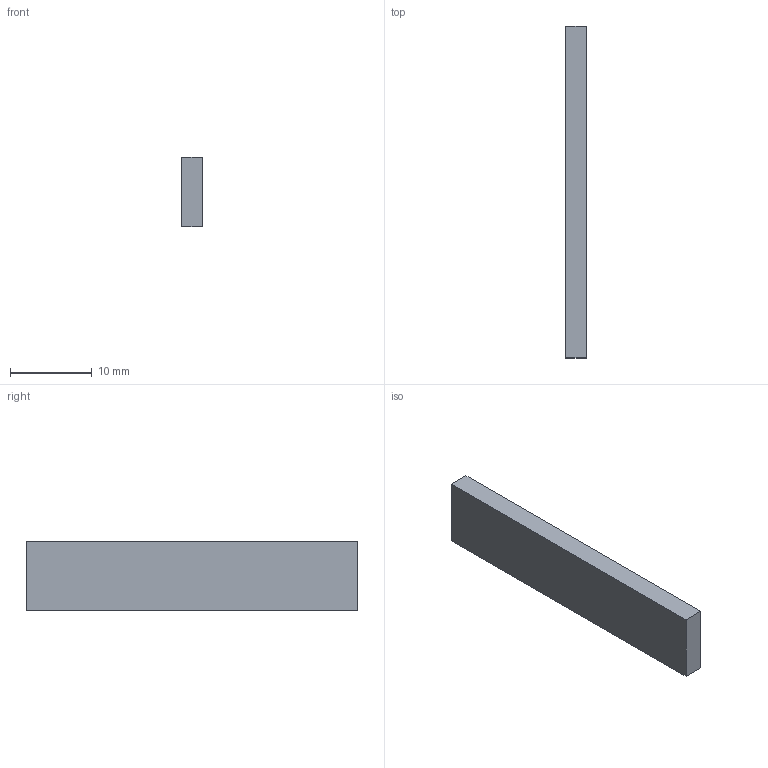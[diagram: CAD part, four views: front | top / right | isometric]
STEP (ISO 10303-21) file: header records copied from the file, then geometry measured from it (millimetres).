
FILE_DESCRIPTION(('Through-hole socket strip 1x16, 2.54 mm pitch -- body envelope 8.50 mm tall (2.54 mm socket strip, mating height (ICD-EEG-006 section 4))'),'2;1');
FILE_NAME('PinSocket_1x16_P2.54mm_Vertical','2026-09-08T00:00:00',('TI One Voice research programme'),(''),'EEG-CAR-01 step_write.py','','CC BY-SA 4.0');
FILE_SCHEMA(('AUTOMOTIVE_DESIGN { 1 0 10303 214 1 1 1 1 }'));
Length unit declared in the file: millimetre
Products named in the file (1): PinSocket_1x16_P2.54mm_Vertical
Bounding box: 2.54 x 40.64 x 8.5 mm (x, y, z)
Volume: 877.4 mm3; surface area: 940.5 mm2
Topology: 1 solids, 1 shells, 6 faces, 12 edges, 8 vertices
Faces by surface type: plane 6
Entity records: 67 total; most frequent: DIRECTION 14, CARTESIAN_POINT 9, AXIS2_PLACEMENT_3D 7, POLY_LOOP 6, FACE_OUTER_BOUND 6, PLANE 6, FACE_SURFACE 6, UNCERTAINTY_MEASURE_WITH_UNIT 1
